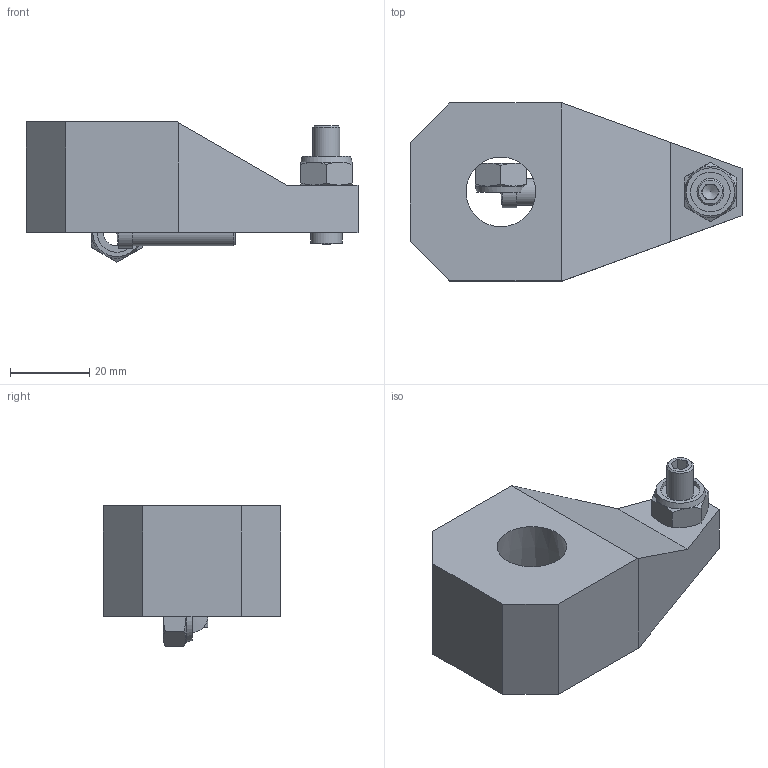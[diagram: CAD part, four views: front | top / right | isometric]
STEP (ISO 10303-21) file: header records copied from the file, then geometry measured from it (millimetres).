
FILE_DESCRIPTION( ( '' ), '1' );
FILE_NAME( 'W:/Catalogue/JSM/jsm40_clamparm/jsm40_clamparm.stp', '2008-05-26T02:56:52', ( '機械事業部産業機器グループ' ), ( '豊和工業株式会社' ), 'XStep 1.0', ' ', ' ' );
FILE_SCHEMA( ( 'CONFIG_CONTROL_DESIGN' ) );
Length unit declared in the file: millimetre
Products named in the file (4): Assem1; 1; 2; 3
Bounding box: 84 x 45 x 35.5 mm (x, y, z)
Volume: 121753.7 mm3; surface area: 27469.4 mm2
Topology: 6 solids, 6 shells, 132 faces, 310 edges, 194 vertices
Faces by surface type: plane 72, cone 32, cylinder 26, sphere 2
Full cylindrical faces by diameter (mm): 4 x2, 6.8 x6, 8 x2, 8.5 x2, 10 x2
Entity records: 2048 total; most frequent: CARTESIAN_POINT 435, DIRECTION 300, ORIENTED_EDGE 274, EDGE_CURVE 137, AXIS2_PLACEMENT_3D 117, VERTEX_POINT 92, EDGE_LOOP 86, FACE_OUTER_BOUND 73
